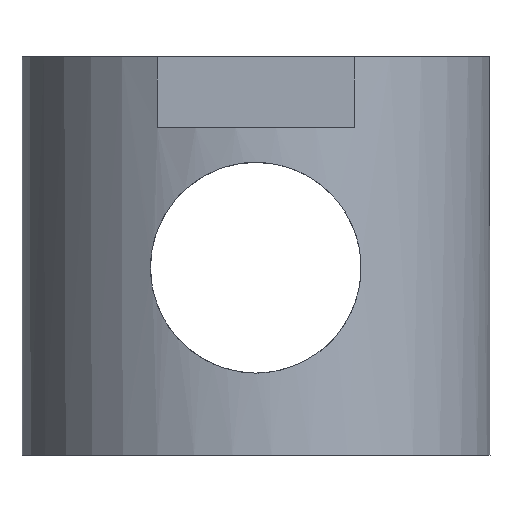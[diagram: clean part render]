
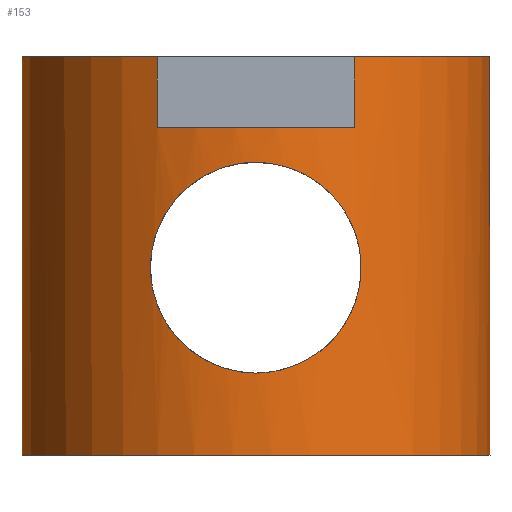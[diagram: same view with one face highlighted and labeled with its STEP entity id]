
A CAD part, front view. The second image highlights one B-rep face of the part: STEP entity #153.
In plain terms, the highlighted cylindrical face has radius 5 mm (diameter 10 mm), a full revolution.
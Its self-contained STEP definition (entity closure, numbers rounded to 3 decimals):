
#27=CIRCLE('',#177,5.);
#28=CIRCLE('',#178,5.);
#29=CIRCLE('',#179,5.);
#32=LINE('',#247,#42);
#33=LINE('',#252,#43);
#42=VECTOR('',#195,1000.);
#43=VECTOR('',#198,1000.);
#52=ORIENTED_EDGE('',*,*,#86,.T.);
#53=ORIENTED_EDGE('',*,*,#87,.T.);
#54=ORIENTED_EDGE('',*,*,#88,.T.);
#55=ORIENTED_EDGE('',*,*,#89,.F.);
#56=ORIENTED_EDGE('',*,*,#90,.T.);
#57=ORIENTED_EDGE('',*,*,#91,.F.);
#58=ORIENTED_EDGE('',*,*,#92,.T.);
#86=EDGE_CURVE('',#103,#103,#116,.T.);
#87=EDGE_CURVE('',#104,#105,#32,.T.);
#88=EDGE_CURVE('',#105,#106,#27,.T.);
#89=EDGE_CURVE('',#107,#106,#33,.T.);
#90=EDGE_CURVE('',#107,#104,#28,.F.);
#91=EDGE_CURVE('',#108,#108,#29,.T.);
#92=EDGE_CURVE('',#109,#109,#117,.T.);
#103=VERTEX_POINT('',#246);
#104=VERTEX_POINT('',#248);
#105=VERTEX_POINT('',#249);
#106=VERTEX_POINT('',#251);
#107=VERTEX_POINT('',#253);
#108=VERTEX_POINT('',#256);
#109=VERTEX_POINT('',#276);
#116=B_SPLINE_CURVE_WITH_KNOTS('',3,(#235,#236,#237,#238,#239,#240,#241,
#242,#243,#244,#245),.UNSPECIFIED.,.T.,.F.,(1,1,1,1,1,1,1,1,1,1,1,1,1,1,
1),(-0.005,-0.004,-0.002,0.,
0.002,0.004,0.005,0.007,
0.009,0.011,0.012,0.014,
0.016,0.018,0.02),.UNSPECIFIED.);
#117=B_SPLINE_CURVE_WITH_KNOTS('',3,(#257,#258,#259,#260,#261,#262,#263,
#264,#265,#266,#267,#268,#269,#270,#271,#272,#273,#274,#275),
 .UNSPECIFIED.,.T.,.F.,(1,1,1,1,1,1,1,1,1,1,1,1,1,1,1,1,1,1,1,1,1,1,1),
(-0.004,-0.003,-0.001,0.,
0.001,0.003,0.004,0.006,
0.007,0.009,0.01,0.012,
0.013,0.015,0.016,0.018,
0.019,0.021,0.022,0.023,
0.025,0.026,0.028),.UNSPECIFIED.);
#118=EDGE_LOOP('',(#52));
#119=EDGE_LOOP('',(#53,#54,#55,#56));
#120=EDGE_LOOP('',(#57));
#121=EDGE_LOOP('',(#58));
#134=FACE_BOUND('',#118,.T.);
#135=FACE_BOUND('',#119,.T.);
#136=FACE_BOUND('',#120,.T.);
#137=FACE_BOUND('',#121,.T.);
#150=CYLINDRICAL_SURFACE('',#176,5.);
#153=ADVANCED_FACE('',(#134,#135,#136,#137),#150,.T.);
#176=AXIS2_PLACEMENT_3D('',#234,#193,#194);
#177=AXIS2_PLACEMENT_3D('',#250,#196,#197);
#178=AXIS2_PLACEMENT_3D('',#254,#199,#200);
#179=AXIS2_PLACEMENT_3D('',#255,#201,#202);
#193=DIRECTION('',(0.,0.,-1.));
#194=DIRECTION('',(-1.,0.,0.));
#195=DIRECTION('',(0.,0.,1.));
#196=DIRECTION('',(0.,0.,-1.));
#197=DIRECTION('',(1.,0.,0.));
#198=DIRECTION('',(0.,0.,1.));
#199=DIRECTION('',(0.,0.,1.));
#200=DIRECTION('',(1.,0.,0.));
#201=DIRECTION('',(0.,0.,-1.));
#202=DIRECTION('',(1.,0.,0.));
#234=CARTESIAN_POINT('',(0.,0.,8.5));
#235=CARTESIAN_POINT('',(1.766,-4.747,2.239));
#236=CARTESIAN_POINT('',(-0.001,-5.127,1.505));
#237=CARTESIAN_POINT('',(-1.764,-4.747,2.24));
#238=CARTESIAN_POINT('',(-2.493,-4.324,3.994));
#239=CARTESIAN_POINT('',(-1.764,-4.747,5.762));
#240=CARTESIAN_POINT('',(-0.006,-5.126,6.494));
#241=CARTESIAN_POINT('',(1.764,-4.748,5.762));
#242=CARTESIAN_POINT('',(2.492,-4.324,4.005));
#243=CARTESIAN_POINT('',(1.766,-4.747,2.239));
#244=CARTESIAN_POINT('',(-0.001,-5.127,1.505));
#245=CARTESIAN_POINT('',(-1.764,-4.747,2.24));
#246=CARTESIAN_POINT('',(0.,-5.,1.75));
#247=CARTESIAN_POINT('',(-2.1,-4.538,7.));
#248=CARTESIAN_POINT('',(-2.1,-4.538,7.));
#249=CARTESIAN_POINT('',(-2.1,-4.538,8.5));
#250=CARTESIAN_POINT('',(0.,0.,8.5));
#251=CARTESIAN_POINT('',(2.1,-4.538,8.5));
#252=CARTESIAN_POINT('',(2.1,-4.538,7.));
#253=CARTESIAN_POINT('',(2.1,-4.538,7.));
#254=CARTESIAN_POINT('',(0.,0.,7.));
#255=CARTESIAN_POINT('',(0.,0.,0.));
#256=CARTESIAN_POINT('',(5.,0.,0.));
#257=CARTESIAN_POINT('',(-1.472,4.845,0.61));
#258=CARTESIAN_POINT('',(0.001,5.077,0.295));
#259=CARTESIAN_POINT('',(1.47,4.846,0.609));
#260=CARTESIAN_POINT('',(2.62,4.308,1.413));
#261=CARTESIAN_POINT('',(3.388,3.702,2.534));
#262=CARTESIAN_POINT('',(3.705,3.355,4.));
#263=CARTESIAN_POINT('',(3.392,3.698,5.457));
#264=CARTESIAN_POINT('',(2.623,4.306,6.584));
#265=CARTESIAN_POINT('',(1.481,4.843,7.386));
#266=CARTESIAN_POINT('',(0.007,5.077,7.705));
#267=CARTESIAN_POINT('',(-1.463,4.849,7.395));
#268=CARTESIAN_POINT('',(-2.62,4.309,6.589));
#269=CARTESIAN_POINT('',(-3.389,3.7,5.462));
#270=CARTESIAN_POINT('',(-3.705,3.355,4.001));
#271=CARTESIAN_POINT('',(-3.39,3.701,2.536));
#272=CARTESIAN_POINT('',(-2.617,4.311,1.409));
#273=CARTESIAN_POINT('',(-1.472,4.845,0.61));
#274=CARTESIAN_POINT('',(0.001,5.077,0.295));
#275=CARTESIAN_POINT('',(1.47,4.846,0.609));
#276=CARTESIAN_POINT('',(0.,5.,0.4));
